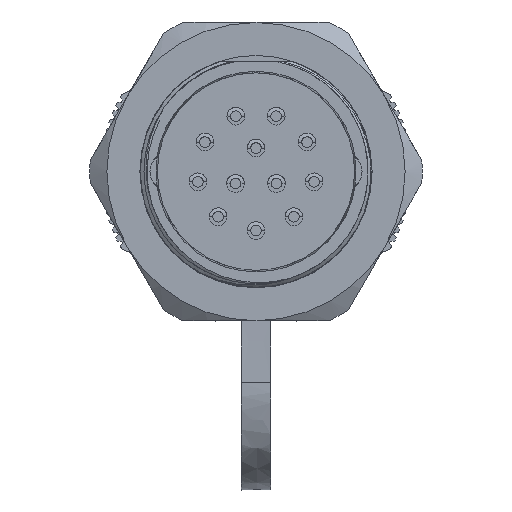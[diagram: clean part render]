
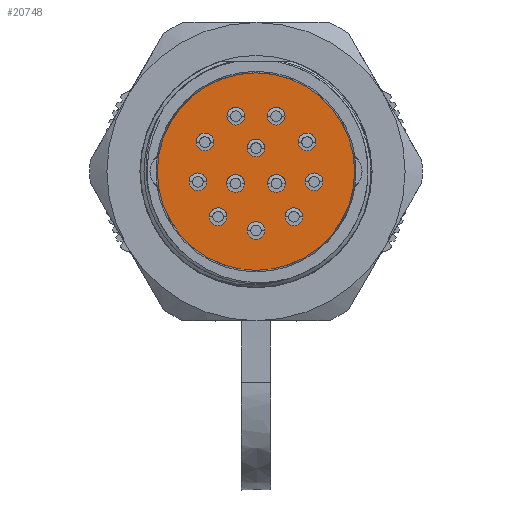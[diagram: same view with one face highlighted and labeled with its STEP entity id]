
A CAD part, front view. The second image highlights one B-rep face of the part: STEP entity #20748.
In plain terms, the highlighted planar face has unit normal (0, -1, 0).
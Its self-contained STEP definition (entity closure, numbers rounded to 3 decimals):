
#11621=CARTESIAN_POINT('',(0.,1.615,0.));
#11622=DIRECTION('',(0.,1.,0.));
#11623=DIRECTION('',(0.,0.,-1.));
#11624=AXIS2_PLACEMENT_3D('',#11621,#11622,#11623);
#11626=CARTESIAN_POINT('',(0.,1.615,0.));
#11627=DIRECTION('',(0.,1.,0.));
#11628=DIRECTION('',(0.,0.,1.));
#11629=AXIS2_PLACEMENT_3D('',#11626,#11627,#11628);
#13445=CARTESIAN_POINT('',(0.,1.615,-8.372));
#13446=VERTEX_POINT('',#13445);
#13447=CARTESIAN_POINT('',(0.,1.615,8.372));
#13448=VERTEX_POINT('',#13447);
#20739=CARTESIAN_POINT('',(0.,1.615,0.));
#20740=DIRECTION('',(0.,1.,0.));
#20741=DIRECTION('',(0.,0.,-1.));
#20742=AXIS2_PLACEMENT_3D('',#20739,#20740,#20741);
#20743=PLANE('',#20742);
#20744=ORIENTED_EDGE('',*,*,#20721,.T.);
#20745=ORIENTED_EDGE('',*,*,#20701,.T.);
#20746=EDGE_LOOP('',(#20744,#20745));
#20747=FACE_OUTER_BOUND('',#20746,.F.);
#11625=CIRCLE('',#11624,8.372);
#11630=CIRCLE('',#11629,8.372);
#20701=EDGE_CURVE('',#13448,#13446,#11630,.T.);
#20721=EDGE_CURVE('',#13446,#13448,#11625,.T.);
#20748=ADVANCED_FACE('',(#20747),#20743,.F.);
